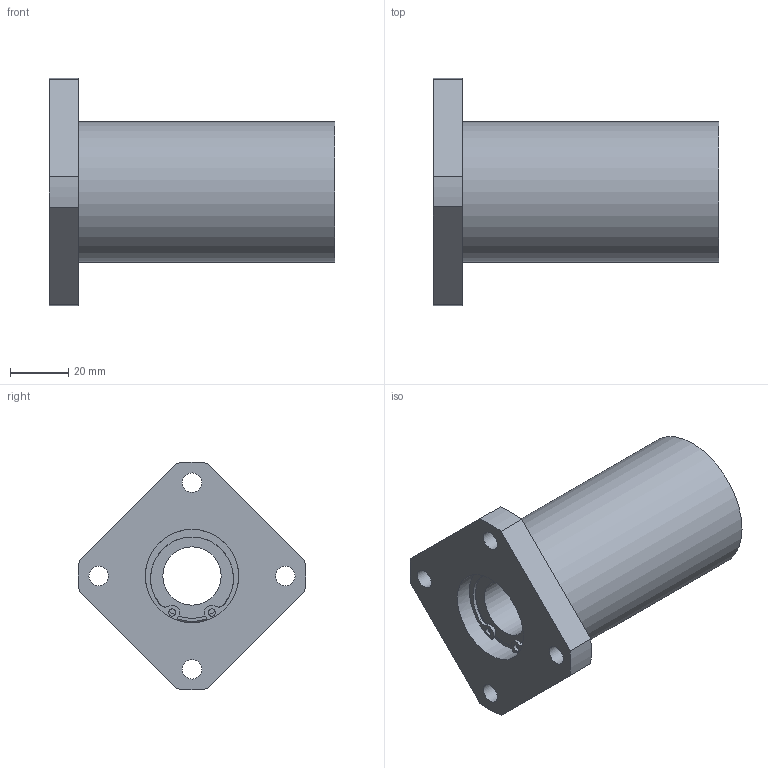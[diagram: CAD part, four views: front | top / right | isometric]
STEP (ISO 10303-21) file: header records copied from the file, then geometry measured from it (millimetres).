
FILE_DESCRIPTION((''),'2;1');
FILE_NAME('D:\製品 (図面)\カタログ用3D\リニアベアリング関連(改)\STEP形式\LFWK\LFWK20.stp','2010-01-22T15:57:29',('Tsuchiya'),(''),'Autodesk Inventor 10','Autodesk Inventor 10','');
FILE_SCHEMA(('AUTOMOTIVE_DESIGN { 1 0 10303 214 1 1 1 1 }'));
Length unit declared in the file: millimetre
Products named in the file (1): LFWK20
Bounding box: 98 x 77.92 x 77.92 mm (x, y, z)
Volume: 157353.6 mm3; surface area: 33386.7 mm2
Topology: 1 solids, 6 shells, 86 faces, 212 edges, 133 vertices
Faces by surface type: bspline 31, cylinder 28, plane 25, torus 2
Full cylindrical faces by diameter (mm): 2.5 x2, 6.647 x4, 20 x1, 29 x2, 30.3 x2, 32 x7, 48 x1
Entity records: 2574 total; most frequent: CARTESIAN_POINT 698, DIRECTION 394, ORIENTED_EDGE 330, AXIS2_PLACEMENT_3D 173, EDGE_CURVE 165, EDGE_LOOP 144, VERTEX_POINT 117, CIRCLE 117
